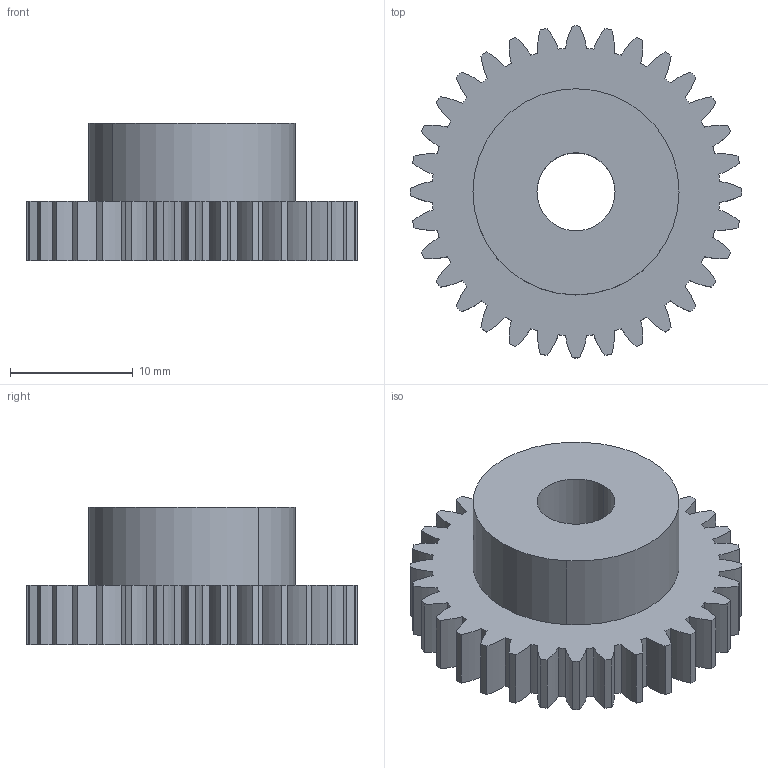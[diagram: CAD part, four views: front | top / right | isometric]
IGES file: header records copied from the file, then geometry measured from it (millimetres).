
Global section: file name: C:\Documents and Settings\Administrator\Desktop\Transfer Temp\gbs-3232.igs; native system: AutoDesk Inventor R2.0 ; preprocessor: AutoDesk Inventor Iges Exporter R2.0; author: No Author specified; organization: No Organization specified; date: 20011227.204038; units: inch
Bounding box: 26.99 x 26.99 x 11.18 mm (x, y, z)
Surface area: 2268.4 mm2 (no closed solid volume)
Topology: 0 solids, 0 shells, 135 faces, 792 edges, 792 vertices
Faces by surface type: revolution 130, bspline 5
